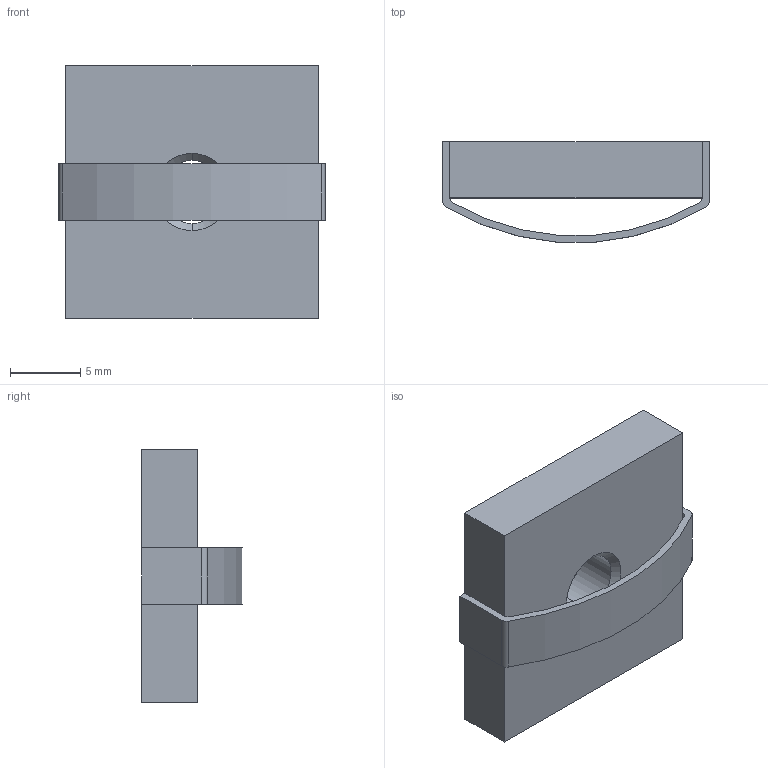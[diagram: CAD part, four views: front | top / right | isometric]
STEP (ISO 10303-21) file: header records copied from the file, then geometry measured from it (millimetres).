
FILE_DESCRIPTION (( 'STEP AP214' ), '1' );
FILE_NAME ('SNSD.30.51.36. Ñóõàðü ïàçîâûé ñ ïðóæèííîé ïëàñòèíîé M5, ïàç 10(C79).STEP', '2014-12-01T09:02:18', ( 'XTreme.ws' ), ( 'XTreme.ws' ), 'SwSTEP 2.0', 'SolidWorks 2014', '' );
FILE_SCHEMA (( 'AUTOMOTIVE_DESIGN' ));
Length unit declared in the file: millimetre
Products named in the file (3): SNSD.30.51.19. ﾏ跖浯(B79)B80B78B81C79_00; SNSD.30.51.36. Ñóõàðü ïàçîâûé ñ ïðóæèííîé ïëàñòèíîé M5, ïàç 10(C79); SNSD.30.51.19. Ñóõàðü ïàçîâûé ñ ïðóæèííîé ïëàñòèíîé M6, ïàç 8(B79)B80B78B81C79_00
Assembly tree (2 placements, depth 2):
  SNSD.30.51.36. Ñóõàðü ïàçîâûé ñ ïðóæèííîé ïëàñòèíîé M5, ïàç 10(C79)
    SNSD.30.51.19. Ñóõàðü ïàçîâûé ñ ïðóæèííîé ïëàñòèíîé M6, ïàç 8(B79)B80B78B81C79_00
    SNSD.30.51.19. ﾏ跖浯(B79)B80B78B81C79_00
Bounding box: 19 x 7.15 x 18 mm (x, y, z)
Volume: 1284.9 mm3; surface area: 1209.8 mm2
Topology: 2 solids, 2 shells, 26 faces, 62 edges, 40 vertices
Faces by surface type: plane 14, cylinder 8, cone 4
Entity records: 890 total; most frequent: DIRECTION 144, CARTESIAN_POINT 133, ORIENTED_EDGE 124, EDGE_CURVE 62, AXIS2_PLACEMENT_3D 51, VECTOR 42, LINE 42, VERTEX_POINT 40
